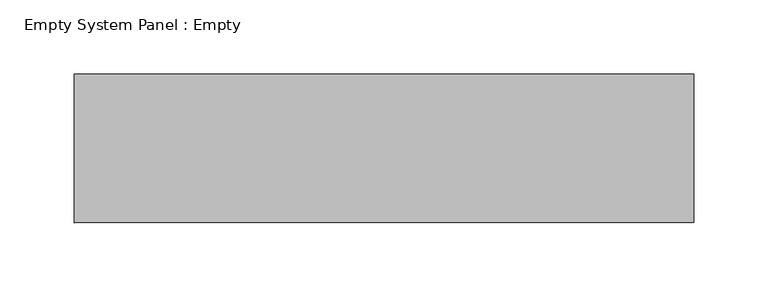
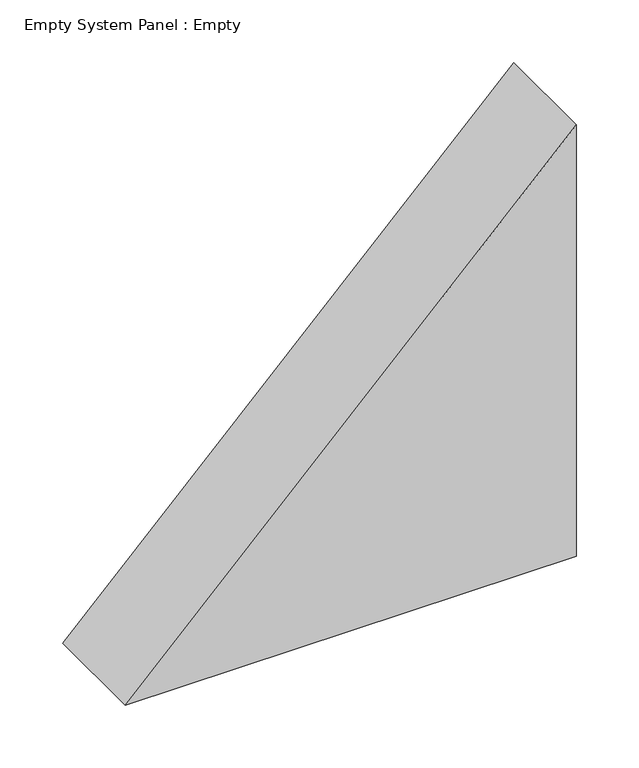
"""IFC4 building model written with IfcOpenShell, lengths in millimetres: plate geometry, Empty System Panel : Empty."""

from ifc_helpers import new_model, si_unit, frame, origin, place, context, project, spatial, polyline, outline, extrude, source, transform, mapped, element, save


def empty_system_panel_empty_9e1b447b(model_context):
    return source(origin(), model_context, "Body", "SweptSolid", [
        extrude(outline(polyline([(0.0, -208.3121825), (0.0, 208.3121825), (421.2853171, 208.3121825), (0.0, -208.3121825)])), frame((0.0, -50.0, 0.0), z_axis=(0.0, 1.0, 0.0), x_axis=(0.0, 0.0, 1.0)), (0.0, 0.0, 1.0), 100.0),
    ])


if __name__ == "__main__":
    model = new_model("IFC4")
    model_context = context("Model", 3, world=origin())
    ifc_project = project(units=[si_unit("LENGTHUNIT", "METRE", prefix="MILLI")], contexts=[model_context])
    site = spatial("IfcSite", under=ifc_project)
    building = spatial("IfcBuilding", under=site)
    placement = place(None, origin())
    empty_system_panel_empty_shape = empty_system_panel_empty_9e1b447b(model_context)
    element("IfcPlate", 1, ObjectType="Empty System Panel : Empty", at=placement, inside=building, context=model_context, shape_type="MappedRepresentation", body=[
        mapped(empty_system_panel_empty_shape, transform((0.0, 0.0, 0.0), x_axis=(1.0, 0.0, 0.0), y_axis=(0.0, 1.0, 0.0), z_axis=(0.0, 0.0, 1.0))),
    ])
    save(model, "model.ifc")
